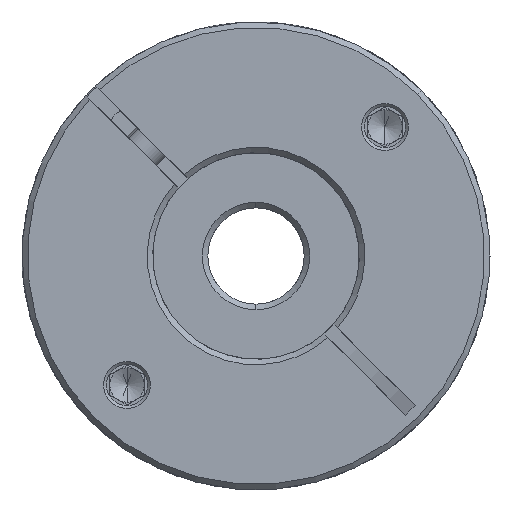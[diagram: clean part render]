
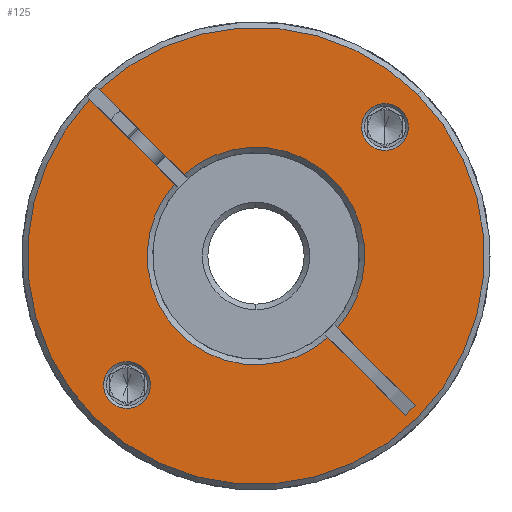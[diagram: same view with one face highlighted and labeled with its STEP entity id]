
A CAD part, front view. The second image highlights one B-rep face of the part: STEP entity #125.
In plain terms, the highlighted planar face has unit normal (0, -1, 0).
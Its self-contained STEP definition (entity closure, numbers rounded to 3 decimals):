
#125 = ADVANCED_FACE ( 'NONE', ( #9379, #17671, #5461 ), #7738, .T. ) ;
#403 = CARTESIAN_POINT ( 'NONE',  ( 16.003, -67.045, 86.738 ) ) ;
#412 = ORIENTED_EDGE ( 'NONE', *, *, #4682, .F. ) ;
#750 = ORIENTED_EDGE ( 'NONE', *, *, #14775, .T. ) ;
#913 = LINE ( 'NONE', #7828, #11042 ) ;
#939 = CARTESIAN_POINT ( 'NONE',  ( -2.735, -67.045, 68. ) ) ;
#1025 = CARTESIAN_POINT ( 'NONE',  ( -2.028, -67.045, 68.707 ) ) ;
#1178 = DIRECTION ( 'NONE',  ( 0., -1., 0. ) ) ;
#1382 = CIRCLE ( 'NONE', #17451, 33.2 ) ;
#1385 = CIRCLE ( 'NONE', #7432, 3.4 ) ;
#1404 = ORIENTED_EDGE ( 'NONE', *, *, #10325, .T. ) ;
#1482 = LINE ( 'NONE', #1025, #5636 ) ;
#1697 = EDGE_CURVE ( 'NONE', #7183, #8499, #14050, .T. ) ;
#2004 = CARTESIAN_POINT ( 'NONE',  ( -25.493, -67.045, 92.172 ) ) ;
#2182 = DIRECTION ( 'NONE',  ( 0.707, 0., 0.707 ) ) ;
#2215 = AXIS2_PLACEMENT_3D ( 'NONE', #18207, #8313, #9968 ) ;
#2765 = CIRCLE ( 'NONE', #13085, 3.4 ) ;
#2868 = DIRECTION ( 'NONE',  ( 0.707, 0., 0.707 ) ) ;
#2873 = VERTEX_POINT ( 'NONE', #14394 ) ;
#2892 = CARTESIAN_POINT ( 'NONE',  ( -23.878, -67.045, 46.858 ) ) ;
#3536 = DIRECTION ( 'NONE',  ( 0.707, 0., 0.707 ) ) ;
#3561 = EDGE_LOOP ( 'NONE', ( #10407, #1404 ) ) ;
#3843 = CIRCLE ( 'NONE', #17936, 15.8 ) ;
#4008 = VERTEX_POINT ( 'NONE', #16705 ) ;
#4029 = VERTEX_POINT ( 'NONE', #13718 ) ;
#4228 = ORIENTED_EDGE ( 'NONE', *, *, #16467, .T. ) ;
#4315 = EDGE_CURVE ( 'NONE', #4008, #12252, #2765, .T. ) ;
#4682 = EDGE_CURVE ( 'NONE', #13461, #8499, #913, .T. ) ;
#4732 = ORIENTED_EDGE ( 'NONE', *, *, #19199, .T. ) ;
#4870 = CARTESIAN_POINT ( 'NONE',  ( -3.442, -67.045, 67.293 ) ) ;
#5241 = VERTEX_POINT ( 'NONE', #9585 ) ;
#5314 = AXIS2_PLACEMENT_3D ( 'NONE', #7965, #21443, #2868 ) ;
#5461 = FACE_OUTER_BOUND ( 'NONE', #18788, .T. ) ;
#5636 = VECTOR ( 'NONE', #10763, 1000. ) ;
#6303 = DIRECTION ( 'NONE',  ( 0., 1., 0. ) ) ;
#6693 = EDGE_CURVE ( 'NONE', #7379, #17682, #1385, .T. ) ;
#6778 = EDGE_CURVE ( 'NONE', #2873, #5241, #12028, .T. ) ;
#6977 = CIRCLE ( 'NONE', #2215, 3.4 ) ;
#7183 = VERTEX_POINT ( 'NONE', #12964 ) ;
#7379 = VERTEX_POINT ( 'NONE', #8539 ) ;
#7410 = DIRECTION ( 'NONE',  ( 0.707, 0., 0.707 ) ) ;
#7432 = AXIS2_PLACEMENT_3D ( 'NONE', #7620, #9088, #12401 ) ;
#7620 = CARTESIAN_POINT ( 'NONE',  ( -21.473, -67.045, 49.262 ) ) ;
#7655 = AXIS2_PLACEMENT_3D ( 'NONE', #939, #14247, #13962 ) ;
#7738 = PLANE ( 'NONE',  #19517 ) ;
#7828 = CARTESIAN_POINT ( 'NONE',  ( -3.442, -67.045, 67.293 ) ) ;
#7914 = AXIS2_PLACEMENT_3D ( 'NONE', #14579, #11301, #13046 ) ;
#7965 = CARTESIAN_POINT ( 'NONE',  ( -2.735, -67.045, 68. ) ) ;
#8313 = DIRECTION ( 'NONE',  ( 0., 1., 0. ) ) ;
#8499 = VERTEX_POINT ( 'NONE', #12715 ) ;
#8539 = CARTESIAN_POINT ( 'NONE',  ( -19.069, -67.045, 51.666 ) ) ;
#8675 = CIRCLE ( 'NONE', #15804, 3.4 ) ;
#8824 = CARTESIAN_POINT ( 'NONE',  ( -2.735, -67.045, 68. ) ) ;
#9047 = VERTEX_POINT ( 'NONE', #16782 ) ;
#9088 = DIRECTION ( 'NONE',  ( 0., 1., 0. ) ) ;
#9379 = FACE_BOUND ( 'NONE', #3561, .T. ) ;
#9585 = CARTESIAN_POINT ( 'NONE',  ( 9.122, -67.045, 57.557 ) ) ;
#9842 = CARTESIAN_POINT ( 'NONE',  ( 18.988, -67.045, 44.862 ) ) ;
#9871 = DIRECTION ( 'NONE',  ( 0.707, 0., 0.707 ) ) ;
#9968 = DIRECTION ( 'NONE',  ( 0.707, 0., 0.707 ) ) ;
#9981 = DIRECTION ( 'NONE',  ( 0.707, 0., 0.707 ) ) ;
#10050 = EDGE_CURVE ( 'NONE', #20844, #2873, #3843, .T. ) ;
#10161 = VECTOR ( 'NONE', #19611, 1000. ) ;
#10325 = EDGE_CURVE ( 'NONE', #12252, #4008, #6977, .T. ) ;
#10407 = ORIENTED_EDGE ( 'NONE', *, *, #4315, .T. ) ;
#10642 = ORIENTED_EDGE ( 'NONE', *, *, #1697, .T. ) ;
#10763 = DIRECTION ( 'NONE',  ( 0.707, 0., -0.707 ) ) ;
#10849 = ORIENTED_EDGE ( 'NONE', *, *, #17333, .F. ) ;
#11042 = VECTOR ( 'NONE', #11128, 1000. ) ;
#11049 = CARTESIAN_POINT ( 'NONE',  ( -2.735, -67.045, 68. ) ) ;
#11128 = DIRECTION ( 'NONE',  ( 0.707, 0., -0.707 ) ) ;
#11301 = DIRECTION ( 'NONE',  ( 0., -1., 0. ) ) ;
#11307 = DIRECTION ( 'NONE',  ( 0., -1., 0. ) ) ;
#11377 = CARTESIAN_POINT ( 'NONE',  ( -2.735, -67.045, 68. ) ) ;
#11392 = DIRECTION ( 'NONE',  ( 0.707, 0., -0.707 ) ) ;
#11410 = EDGE_LOOP ( 'NONE', ( #15094, #20624 ) ) ;
#11651 = LINE ( 'NONE', #4870, #18651 ) ;
#12028 = CIRCLE ( 'NONE', #13403, 15.8 ) ;
#12252 = VERTEX_POINT ( 'NONE', #13985 ) ;
#12401 = DIRECTION ( 'NONE',  ( 0.707, 0., 0.707 ) ) ;
#12608 = CARTESIAN_POINT ( 'NONE',  ( -26.908, -67.045, 90.758 ) ) ;
#12715 = CARTESIAN_POINT ( 'NONE',  ( 18.988, -67.045, 44.862 ) ) ;
#12964 = CARTESIAN_POINT ( 'NONE',  ( 20.402, -67.045, 46.277 ) ) ;
#13046 = DIRECTION ( 'NONE',  ( 0.707, 0., 0.707 ) ) ;
#13066 = CARTESIAN_POINT ( 'NONE',  ( -13.178, -67.045, 79.857 ) ) ;
#13085 = AXIS2_PLACEMENT_3D ( 'NONE', #403, #19713, #3536 ) ;
#13199 = ORIENTED_EDGE ( 'NONE', *, *, #10050, .T. ) ;
#13270 = CARTESIAN_POINT ( 'NONE',  ( 7.708, -67.045, 56.143 ) ) ;
#13297 = ORIENTED_EDGE ( 'NONE', *, *, #18091, .T. ) ;
#13342 = LINE ( 'NONE', #14893, #14389 ) ;
#13403 = AXIS2_PLACEMENT_3D ( 'NONE', #11377, #6303, #16103 ) ;
#13461 = VERTEX_POINT ( 'NONE', #13270 ) ;
#13718 = CARTESIAN_POINT ( 'NONE',  ( -26.211, -67.045, 44.524 ) ) ;
#13860 = VERTEX_POINT ( 'NONE', #14906 ) ;
#13872 = ORIENTED_EDGE ( 'NONE', *, *, #20917, .T. ) ;
#13948 = EDGE_CURVE ( 'NONE', #17682, #7379, #8675, .T. ) ;
#13962 = DIRECTION ( 'NONE',  ( 0.707, 0., 0.707 ) ) ;
#13985 = CARTESIAN_POINT ( 'NONE',  ( 13.599, -67.045, 84.334 ) ) ;
#13998 = EDGE_CURVE ( 'NONE', #9047, #17441, #1382, .T. ) ;
#14050 = LINE ( 'NONE', #9842, #10161 ) ;
#14153 = DIRECTION ( 'NONE',  ( 0., 1., 0. ) ) ;
#14247 = DIRECTION ( 'NONE',  ( 0., 1., 0. ) ) ;
#14389 = VECTOR ( 'NONE', #14976, 1000. ) ;
#14394 = CARTESIAN_POINT ( 'NONE',  ( 8.437, -67.045, 79.172 ) ) ;
#14579 = CARTESIAN_POINT ( 'NONE',  ( -2.735, -67.045, 68. ) ) ;
#14775 = EDGE_CURVE ( 'NONE', #4029, #9047, #17744, .T. ) ;
#14893 = CARTESIAN_POINT ( 'NONE',  ( -2.028, -67.045, 68.707 ) ) ;
#14906 = CARTESIAN_POINT ( 'NONE',  ( -14.592, -67.045, 78.443 ) ) ;
#14976 = DIRECTION ( 'NONE',  ( 0.707, 0., -0.707 ) ) ;
#15094 = ORIENTED_EDGE ( 'NONE', *, *, #6693, .T. ) ;
#15310 = ORIENTED_EDGE ( 'NONE', *, *, #13998, .T. ) ;
#15341 = CIRCLE ( 'NONE', #7655, 15.8 ) ;
#15804 = AXIS2_PLACEMENT_3D ( 'NONE', #17334, #14153, #7410 ) ;
#16103 = DIRECTION ( 'NONE',  ( 0.707, 0., 0.707 ) ) ;
#16467 = EDGE_CURVE ( 'NONE', #13461, #13860, #15341, .T. ) ;
#16705 = CARTESIAN_POINT ( 'NONE',  ( 18.407, -67.045, 89.142 ) ) ;
#16782 = CARTESIAN_POINT ( 'NONE',  ( 20.741, -67.045, 91.476 ) ) ;
#17304 = ORIENTED_EDGE ( 'NONE', *, *, #6778, .T. ) ;
#17333 = EDGE_CURVE ( 'NONE', #21273, #13860, #11651, .T. ) ;
#17334 = CARTESIAN_POINT ( 'NONE',  ( -21.473, -67.045, 49.262 ) ) ;
#17441 = VERTEX_POINT ( 'NONE', #2004 ) ;
#17451 = AXIS2_PLACEMENT_3D ( 'NONE', #18124, #11307, #9871 ) ;
#17671 = FACE_BOUND ( 'NONE', #11410, .T. ) ;
#17682 = VERTEX_POINT ( 'NONE', #2892 ) ;
#17744 = CIRCLE ( 'NONE', #7914, 33.2 ) ;
#17839 = CIRCLE ( 'NONE', #5314, 33.2 ) ;
#17936 = AXIS2_PLACEMENT_3D ( 'NONE', #8824, #20399, #2182 ) ;
#18091 = EDGE_CURVE ( 'NONE', #5241, #7183, #1482, .T. ) ;
#18124 = CARTESIAN_POINT ( 'NONE',  ( -2.735, -67.045, 68. ) ) ;
#18207 = CARTESIAN_POINT ( 'NONE',  ( 16.003, -67.045, 86.738 ) ) ;
#18651 = VECTOR ( 'NONE', #11392, 1000. ) ;
#18788 = EDGE_LOOP ( 'NONE', ( #10849, #4732, #750, #15310, #13872, #13199, #17304, #13297, #10642, #412, #4228 ) ) ;
#19199 = EDGE_CURVE ( 'NONE', #21273, #4029, #17839, .T. ) ;
#19517 = AXIS2_PLACEMENT_3D ( 'NONE', #11049, #1178, #9981 ) ;
#19611 = DIRECTION ( 'NONE',  ( -0.707, 0., -0.707 ) ) ;
#19713 = DIRECTION ( 'NONE',  ( 0., 1., 0. ) ) ;
#20399 = DIRECTION ( 'NONE',  ( 0., 1., 0. ) ) ;
#20624 = ORIENTED_EDGE ( 'NONE', *, *, #13948, .T. ) ;
#20844 = VERTEX_POINT ( 'NONE', #13066 ) ;
#20917 = EDGE_CURVE ( 'NONE', #17441, #20844, #13342, .T. ) ;
#21273 = VERTEX_POINT ( 'NONE', #12608 ) ;
#21443 = DIRECTION ( 'NONE',  ( 0., -1., 0. ) ) ;
